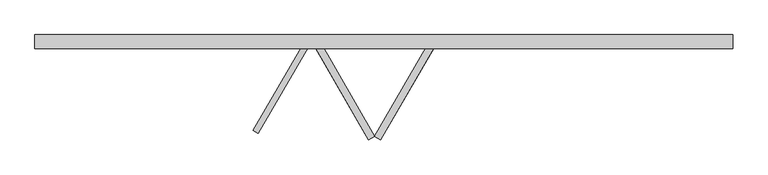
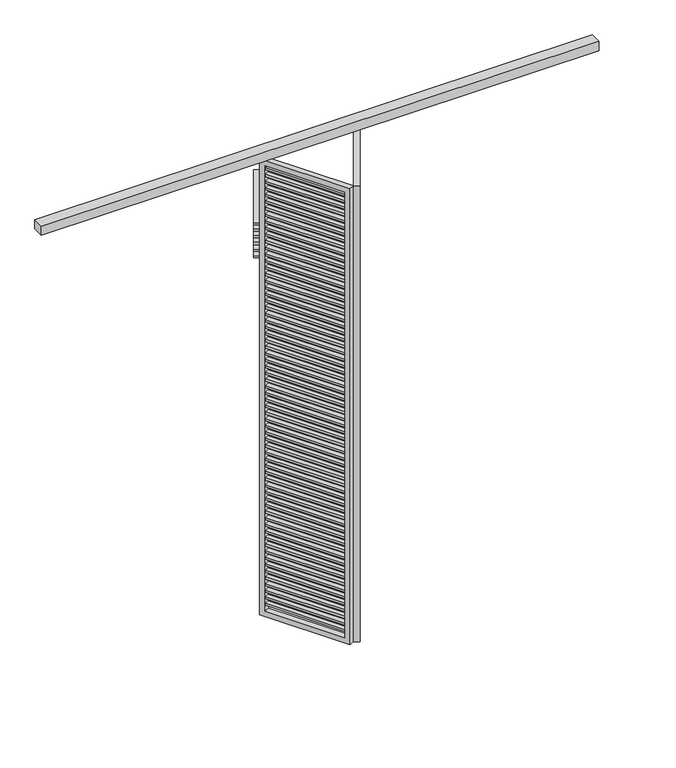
"""IFC4 building model written with IfcOpenShell, lengths in millimetres: proxy geometry, Renson_Amani_Loggia_Plano_Folding : Renson_Amani_Loggia_Plano_Folding."""

from ifc_helpers import new_model, si_unit, frame, origin, place, context, project, spatial, polyline, outline, extrude, source, transform, mapped, element, save


def generic_models_47430486(model_context):
    return source(origin(), model_context, "Body", "SweptSolid", [
        extrude(outline(polyline([(3850.0, 602.9165125), (3850.0, 522.9165125), (-150.0, 522.9165125), (-150.0, 602.9165125), (3850.0, 602.9165125)])), frame((0.0, 0.0, 3500.0), z_axis=(0.0, 0.0, 1.0), x_axis=(1.0, 0.0, 0.0)), (0.0, 0.0, 1.0), 70.0),
        extrude(outline(polyline([(2105.6721051, 546.5254963), (2134.2509434, 530.0254963), (1849.2509434, 36.3910162), (1820.6721051, 52.8910162), (2105.6721051, 546.5254963)])), frame((0.0, 0.0, 3427.0), z_axis=(0.0, 0.0, 1.0), x_axis=(1.0, 0.0, 0.0)), (0.0, 0.0, 1.0), 16.0),
        extrude(outline(polyline([(2105.6721051, 546.5254963), (2134.2509434, 530.0254963), (1849.2509434, 36.3910162), (1820.6721051, 52.8910162), (2105.6721051, 546.5254963)])), frame((0.0, 0.0, 3377.0), z_axis=(0.0, 0.0, 1.0), x_axis=(1.0, 0.0, 0.0)), (0.0, 0.0, 1.0), 16.0),
        extrude(outline(polyline([(2105.6721051, 546.5254963), (2134.2509434, 530.0254963), (1849.2509434, 36.3910162), (1820.6721051, 52.8910162), (2105.6721051, 546.5254963)])), frame((0.0, 0.0, 3327.0), z_axis=(0.0, 0.0, 1.0), x_axis=(1.0, 0.0, 0.0)), (0.0, 0.0, 1.0), 16.0),
        extrude(outline(polyline([(2105.6721051, 546.5254963), (2134.2509434, 530.0254963), (1849.2509434, 36.3910162), (1820.6721051, 52.8910162), (2105.6721051, 546.5254963)])), frame((0.0, 0.0, 3277.0), z_axis=(0.0, 0.0, 1.0), x_axis=(1.0, 0.0, 0.0)), (0.0, 0.0, 1.0), 16.0),
        extrude(outline(polyline([(2105.6721051, 546.5254963), (2134.2509434, 530.0254963), (1849.2509434, 36.3910162), (1820.6721051, 52.8910162), (2105.6721051, 546.5254963)])), frame((0.0, 0.0, 3227.0), z_axis=(0.0, 0.0, 1.0), x_axis=(1.0, 0.0, 0.0)), (0.0, 0.0, 1.0), 16.0),
        extrude(outline(polyline([(2105.6721051, 546.5254963), (2134.2509434, 530.0254963), (1849.2509434, 36.3910162), (1820.6721051, 52.8910162), (2105.6721051, 546.5254963)])), frame((0.0, 0.0, 3177.0), z_axis=(0.0, 0.0, 1.0), x_axis=(1.0, 0.0, 0.0)), (0.0, 0.0, 1.0), 16.0),
        extrude(outline(polyline([(2105.6721051, 546.5254963), (2134.2509434, 530.0254963), (1849.2509434, 36.3910162), (1820.6721051, 52.8910162), (2105.6721051, 546.5254963)])), frame((0.0, 0.0, 3127.0), z_axis=(0.0, 0.0, 1.0), x_axis=(1.0, 0.0, 0.0)), (0.0, 0.0, 1.0), 16.0),
        extrude(outline(polyline([(2105.6721051, 546.5254963), (2134.2509434, 530.0254963), (1849.2509434, 36.3910162), (1820.6721051, 52.8910162), (2105.6721051, 546.5254963)])), frame((0.0, 0.0, 3077.0), z_axis=(0.0, 0.0, 1.0), x_axis=(1.0, 0.0, 0.0)), (0.0, 0.0, 1.0), 16.0),
        extrude(outline(polyline([(2105.6721051, 546.5254963), (2134.2509434, 530.0254963), (1849.2509434, 36.3910162), (1820.6721051, 52.8910162), (2105.6721051, 546.5254963)])), frame((0.0, 0.0, 3027.0), z_axis=(0.0, 0.0, 1.0), x_axis=(1.0, 0.0, 0.0)), (0.0, 0.0, 1.0), 16.0),
        extrude(outline(polyline([(2105.6721051, 546.5254963), (2134.2509434, 530.0254963), (1849.2509434, 36.3910162), (1820.6721051, 52.8910162), (2105.6721051, 546.5254963)])), frame((0.0, 0.0, 2977.0), z_axis=(0.0, 0.0, 1.0), x_axis=(1.0, 0.0, 0.0)), (0.0, 0.0, 1.0), 16.0),
        extrude(outline(polyline([(2105.6721051, 546.5254963), (2134.2509434, 530.0254963), (1849.2509434, 36.3910162), (1820.6721051, 52.8910162), (2105.6721051, 546.5254963)])), frame((0.0, 0.0, 2927.0), z_axis=(0.0, 0.0, 1.0), x_axis=(1.0, 0.0, 0.0)), (0.0, 0.0, 1.0), 16.0),
        extrude(outline(polyline([(2105.6721051, 546.5254963), (2134.2509434, 530.0254963), (1849.2509434, 36.3910162), (1820.6721051, 52.8910162), (2105.6721051, 546.5254963)])), frame((0.0, 0.0, 2877.0), z_axis=(0.0, 0.0, 1.0), x_axis=(1.0, 0.0, 0.0)), (0.0, 0.0, 1.0), 16.0),
        extrude(outline(polyline([(2105.6721051, 546.5254963), (2134.2509434, 530.0254963), (1849.2509434, 36.3910162), (1820.6721051, 52.8910162), (2105.6721051, 546.5254963)])), frame((0.0, 0.0, 2827.0), z_axis=(0.0, 0.0, 1.0), x_axis=(1.0, 0.0, 0.0)), (0.0, 0.0, 1.0), 16.0),
        extrude(outline(polyline([(2105.6721051, 546.5254963), (2134.2509434, 530.0254963), (1849.2509434, 36.3910162), (1820.6721051, 52.8910162), (2105.6721051, 546.5254963)])), frame((0.0, 0.0, 2777.0), z_axis=(0.0, 0.0, 1.0), x_axis=(1.0, 0.0, 0.0)), (0.0, 0.0, 1.0), 16.0),
        extrude(outline(polyline([(2105.6721051, 546.5254963), (2134.2509434, 530.0254963), (1849.2509434, 36.3910162), (1820.6721051, 52.8910162), (2105.6721051, 546.5254963)])), frame((0.0, 0.0, 2727.0), z_axis=(0.0, 0.0, 1.0), x_axis=(1.0, 0.0, 0.0)), (0.0, 0.0, 1.0), 16.0),
        extrude(outline(polyline([(2105.6721051, 546.5254963), (2134.2509434, 530.0254963), (1849.2509434, 36.3910162), (1820.6721051, 52.8910162), (2105.6721051, 546.5254963)])), frame((0.0, 0.0, 2677.0), z_axis=(0.0, 0.0, 1.0), x_axis=(1.0, 0.0, 0.0)), (0.0, 0.0, 1.0), 16.0),
        extrude(outline(polyline([(2105.6721051, 546.5254963), (2134.2509434, 530.0254963), (1849.2509434, 36.3910162), (1820.6721051, 52.8910162), (2105.6721051, 546.5254963)])), frame((0.0, 0.0, 2627.0), z_axis=(0.0, 0.0, 1.0), x_axis=(1.0, 0.0, 0.0)), (0.0, 0.0, 1.0), 16.0),
        extrude(outline(polyline([(2105.6721051, 546.5254963), (2134.2509434, 530.0254963), (1849.2509434, 36.3910162), (1820.6721051, 52.8910162), (2105.6721051, 546.5254963)])), frame((0.0, 0.0, 2577.0), z_axis=(0.0, 0.0, 1.0), x_axis=(1.0, 0.0, 0.0)), (0.0, 0.0, 1.0), 16.0),
        extrude(outline(polyline([(2105.6721051, 546.5254963), (2134.2509434, 530.0254963), (1849.2509434, 36.3910162), (1820.6721051, 52.8910162), (2105.6721051, 546.5254963)])), frame((0.0, 0.0, 2527.0), z_axis=(0.0, 0.0, 1.0), x_axis=(1.0, 0.0, 0.0)), (0.0, 0.0, 1.0), 16.0),
        extrude(outline(polyline([(2105.6721051, 546.5254963), (2134.2509434, 530.0254963), (1849.2509434, 36.3910162), (1820.6721051, 52.8910162), (2105.6721051, 546.5254963)])), frame((0.0, 0.0, 2477.0), z_axis=(0.0, 0.0, 1.0), x_axis=(1.0, 0.0, 0.0)), (0.0, 0.0, 1.0), 16.0),
        extrude(outline(polyline([(2105.6721051, 546.5254963), (2134.2509434, 530.0254963), (1849.2509434, 36.3910162), (1820.6721051, 52.8910162), (2105.6721051, 546.5254963)])), frame((0.0, 0.0, 2427.0), z_axis=(0.0, 0.0, 1.0), x_axis=(1.0, 0.0, 0.0)), (0.0, 0.0, 1.0), 16.0),
        extrude(outline(polyline([(2105.6721051, 546.5254963), (2134.2509434, 530.0254963), (1849.2509434, 36.3910162), (1820.6721051, 52.8910162), (2105.6721051, 546.5254963)])), frame((0.0, 0.0, 2377.0), z_axis=(0.0, 0.0, 1.0), x_axis=(1.0, 0.0, 0.0)), (0.0, 0.0, 1.0), 16.0),
        extrude(outline(polyline([(2105.6721051, 546.5254963), (2134.2509434, 530.0254963), (1849.2509434, 36.3910162), (1820.6721051, 52.8910162), (2105.6721051, 546.5254963)])), frame((0.0, 0.0, 2327.0), z_axis=(0.0, 0.0, 1.0), x_axis=(1.0, 0.0, 0.0)), (0.0, 0.0, 1.0), 16.0),
        extrude(outline(polyline([(2105.6721051, 546.5254963), (2134.2509434, 530.0254963), (1849.2509434, 36.3910162), (1820.6721051, 52.8910162), (2105.6721051, 546.5254963)])), frame((0.0, 0.0, 2277.0), z_axis=(0.0, 0.0, 1.0), x_axis=(1.0, 0.0, 0.0)), (0.0, 0.0, 1.0), 16.0),
        extrude(outline(polyline([(2105.6721051, 546.5254963), (2134.2509434, 530.0254963), (1849.2509434, 36.3910162), (1820.6721051, 52.8910162), (2105.6721051, 546.5254963)])), frame((0.0, 0.0, 2227.0), z_axis=(0.0, 0.0, 1.0), x_axis=(1.0, 0.0, 0.0)), (0.0, 0.0, 1.0), 16.0),
        extrude(outline(polyline([(2105.6721051, 546.5254963), (2134.2509434, 530.0254963), (1849.2509434, 36.3910162), (1820.6721051, 52.8910162), (2105.6721051, 546.5254963)])), frame((0.0, 0.0, 2177.0), z_axis=(0.0, 0.0, 1.0), x_axis=(1.0, 0.0, 0.0)), (0.0, 0.0, 1.0), 16.0),
        extrude(outline(polyline([(2105.6721051, 546.5254963), (2134.2509434, 530.0254963), (1849.2509434, 36.3910162), (1820.6721051, 52.8910162), (2105.6721051, 546.5254963)])), frame((0.0, 0.0, 2127.0), z_axis=(0.0, 0.0, 1.0), x_axis=(1.0, 0.0, 0.0)), (0.0, 0.0, 1.0), 16.0),
        extrude(outline(polyline([(2105.6721051, 546.5254963), (2134.2509434, 530.0254963), (1849.2509434, 36.3910162), (1820.6721051, 52.8910162), (2105.6721051, 546.5254963)])), frame((0.0, 0.0, 2077.0), z_axis=(0.0, 0.0, 1.0), x_axis=(1.0, 0.0, 0.0)), (0.0, 0.0, 1.0), 16.0),
        extrude(outline(polyline([(2105.6721051, 546.5254963), (2134.2509434, 530.0254963), (1849.2509434, 36.3910162), (1820.6721051, 52.8910162), (2105.6721051, 546.5254963)])), frame((0.0, 0.0, 2027.0), z_axis=(0.0, 0.0, 1.0), x_axis=(1.0, 0.0, 0.0)), (0.0, 0.0, 1.0), 16.0),
        extrude(outline(polyline([(2105.6721051, 546.5254963), (2134.2509434, 530.0254963), (1849.2509434, 36.3910162), (1820.6721051, 52.8910162), (2105.6721051, 546.5254963)])), frame((0.0, 0.0, 1977.0), z_axis=(0.0, 0.0, 1.0), x_axis=(1.0, 0.0, 0.0)), (0.0, 0.0, 1.0), 16.0),
        extrude(outline(polyline([(2105.6721051, 546.5254963), (2134.2509434, 530.0254963), (1849.2509434, 36.3910162), (1820.6721051, 52.8910162), (2105.6721051, 546.5254963)])), frame((0.0, 0.0, 1927.0), z_axis=(0.0, 0.0, 1.0), x_axis=(1.0, 0.0, 0.0)), (0.0, 0.0, 1.0), 16.0),
        extrude(outline(polyline([(2105.6721051, 546.5254963), (2134.2509434, 530.0254963), (1849.2509434, 36.3910162), (1820.6721051, 52.8910162), (2105.6721051, 546.5254963)])), frame((0.0, 0.0, 1877.0), z_axis=(0.0, 0.0, 1.0), x_axis=(1.0, 0.0, 0.0)), (0.0, 0.0, 1.0), 16.0),
        extrude(outline(polyline([(2105.6721051, 546.5254963), (2134.2509434, 530.0254963), (1849.2509434, 36.3910162), (1820.6721051, 52.8910162), (2105.6721051, 546.5254963)])), frame((0.0, 0.0, 1827.0), z_axis=(0.0, 0.0, 1.0), x_axis=(1.0, 0.0, 0.0)), (0.0, 0.0, 1.0), 16.0),
        extrude(outline(polyline([(2105.6721051, 546.5254963), (2134.2509434, 530.0254963), (1849.2509434, 36.3910162), (1820.6721051, 52.8910162), (2105.6721051, 546.5254963)])), frame((0.0, 0.0, 1777.0), z_axis=(0.0, 0.0, 1.0), x_axis=(1.0, 0.0, 0.0)), (0.0, 0.0, 1.0), 16.0),
        extrude(outline(polyline([(2105.6721051, 546.5254963), (2134.2509434, 530.0254963), (1849.2509434, 36.3910162), (1820.6721051, 52.8910162), (2105.6721051, 546.5254963)])), frame((0.0, 0.0, 1727.0), z_axis=(0.0, 0.0, 1.0), x_axis=(1.0, 0.0, 0.0)), (0.0, 0.0, 1.0), 16.0),
        extrude(outline(polyline([(2105.6721051, 546.5254963), (2134.2509434, 530.0254963), (1849.2509434, 36.3910162), (1820.6721051, 52.8910162), (2105.6721051, 546.5254963)])), frame((0.0, 0.0, 1677.0), z_axis=(0.0, 0.0, 1.0), x_axis=(1.0, 0.0, 0.0)), (0.0, 0.0, 1.0), 16.0),
        extrude(outline(polyline([(2105.6721051, 546.5254963), (2134.2509434, 530.0254963), (1849.2509434, 36.3910162), (1820.6721051, 52.8910162), (2105.6721051, 546.5254963)])), frame((0.0, 0.0, 1627.0), z_axis=(0.0, 0.0, 1.0), x_axis=(1.0, 0.0, 0.0)), (0.0, 0.0, 1.0), 16.0),
        extrude(outline(polyline([(2105.6721051, 546.5254963), (2134.2509434, 530.0254963), (1849.2509434, 36.3910162), (1820.6721051, 52.8910162), (2105.6721051, 546.5254963)])), frame((0.0, 0.0, 1577.0), z_axis=(0.0, 0.0, 1.0), x_axis=(1.0, 0.0, 0.0)), (0.0, 0.0, 1.0), 16.0),
        extrude(outline(polyline([(2105.6721051, 546.5254963), (2134.2509434, 530.0254963), (1849.2509434, 36.3910162), (1820.6721051, 52.8910162), (2105.6721051, 546.5254963)])), frame((0.0, 0.0, 1527.0), z_axis=(0.0, 0.0, 1.0), x_axis=(1.0, 0.0, 0.0)), (0.0, 0.0, 1.0), 16.0),
        extrude(outline(polyline([(2105.6721051, 546.5254963), (2134.2509434, 530.0254963), (1849.2509434, 36.3910162), (1820.6721051, 52.8910162), (2105.6721051, 546.5254963)])), frame((0.0, 0.0, 1477.0), z_axis=(0.0, 0.0, 1.0), x_axis=(1.0, 0.0, 0.0)), (0.0, 0.0, 1.0), 16.0),
        extrude(outline(polyline([(2105.6721051, 546.5254963), (2134.2509434, 530.0254963), (1849.2509434, 36.3910162), (1820.6721051, 52.8910162), (2105.6721051, 546.5254963)])), frame((0.0, 0.0, 1427.0), z_axis=(0.0, 0.0, 1.0), x_axis=(1.0, 0.0, 0.0)), (0.0, 0.0, 1.0), 16.0),
        extrude(outline(polyline([(2105.6721051, 546.5254963), (2134.2509434, 530.0254963), (1849.2509434, 36.3910162), (1820.6721051, 52.8910162), (2105.6721051, 546.5254963)])), frame((0.0, 0.0, 1377.0), z_axis=(0.0, 0.0, 1.0), x_axis=(1.0, 0.0, 0.0)), (0.0, 0.0, 1.0), 16.0),
        extrude(outline(polyline([(2105.6721051, 546.5254963), (2134.2509434, 530.0254963), (1849.2509434, 36.3910162), (1820.6721051, 52.8910162), (2105.6721051, 546.5254963)])), frame((0.0, 0.0, 1327.0), z_axis=(0.0, 0.0, 1.0), x_axis=(1.0, 0.0, 0.0)), (0.0, 0.0, 1.0), 16.0),
        extrude(outline(polyline([(2105.6721051, 546.5254963), (2134.2509434, 530.0254963), (1849.2509434, 36.3910162), (1820.6721051, 52.8910162), (2105.6721051, 546.5254963)])), frame((0.0, 0.0, 1277.0), z_axis=(0.0, 0.0, 1.0), x_axis=(1.0, 0.0, 0.0)), (0.0, 0.0, 1.0), 16.0),
        extrude(outline(polyline([(2105.6721051, 546.5254963), (2134.2509434, 530.0254963), (1849.2509434, 36.3910162), (1820.6721051, 52.8910162), (2105.6721051, 546.5254963)])), frame((0.0, 0.0, 1227.0), z_axis=(0.0, 0.0, 1.0), x_axis=(1.0, 0.0, 0.0)), (0.0, 0.0, 1.0), 16.0),
        extrude(outline(polyline([(2105.6721051, 546.5254963), (2134.2509434, 530.0254963), (1849.2509434, 36.3910162), (1820.6721051, 52.8910162), (2105.6721051, 546.5254963)])), frame((0.0, 0.0, 1177.0), z_axis=(0.0, 0.0, 1.0), x_axis=(1.0, 0.0, 0.0)), (0.0, 0.0, 1.0), 16.0),
        extrude(outline(polyline([(2105.6721051, 546.5254963), (2134.2509434, 530.0254963), (1849.2509434, 36.3910162), (1820.6721051, 52.8910162), (2105.6721051, 546.5254963)])), frame((0.0, 0.0, 1127.0), z_axis=(0.0, 0.0, 1.0), x_axis=(1.0, 0.0, 0.0)), (0.0, 0.0, 1.0), 16.0),
        extrude(outline(polyline([(2105.6721051, 546.5254963), (2134.2509434, 530.0254963), (1849.2509434, 36.3910162), (1820.6721051, 52.8910162), (2105.6721051, 546.5254963)])), frame((0.0, 0.0, 1077.0), z_axis=(0.0, 0.0, 1.0), x_axis=(1.0, 0.0, 0.0)), (0.0, 0.0, 1.0), 16.0),
        extrude(outline(polyline([(2105.6721051, 546.5254963), (2134.2509434, 530.0254963), (1849.2509434, 36.3910162), (1820.6721051, 52.8910162), (2105.6721051, 546.5254963)])), frame((0.0, 0.0, 1027.0), z_axis=(0.0, 0.0, 1.0), x_axis=(1.0, 0.0, 0.0)), (0.0, 0.0, 1.0), 16.0),
        extrude(outline(polyline([(2105.6721051, 546.5254963), (2134.2509434, 530.0254963), (1849.2509434, 36.3910162), (1820.6721051, 52.8910162), (2105.6721051, 546.5254963)])), frame((0.0, 0.0, 977.0), z_axis=(0.0, 0.0, 1.0), x_axis=(1.0, 0.0, 0.0)), (0.0, 0.0, 1.0), 16.0),
        extrude(outline(polyline([(2105.6721051, 546.5254963), (2134.2509434, 530.0254963), (1849.2509434, 36.3910162), (1820.6721051, 52.8910162), (2105.6721051, 546.5254963)])), frame((0.0, 0.0, 927.0), z_axis=(0.0, 0.0, 1.0), x_axis=(1.0, 0.0, 0.0)), (0.0, 0.0, 1.0), 16.0),
        extrude(outline(polyline([(2105.6721051, 546.5254963), (2134.2509434, 530.0254963), (1849.2509434, 36.3910162), (1820.6721051, 52.8910162), (2105.6721051, 546.5254963)])), frame((0.0, 0.0, 877.0), z_axis=(0.0, 0.0, 1.0), x_axis=(1.0, 0.0, 0.0)), (0.0, 0.0, 1.0), 16.0),
        extrude(outline(polyline([(2105.6721051, 546.5254963), (2134.2509434, 530.0254963), (1849.2509434, 36.3910162), (1820.6721051, 52.8910162), (2105.6721051, 546.5254963)])), frame((0.0, 0.0, 827.0), z_axis=(0.0, 0.0, 1.0), x_axis=(1.0, 0.0, 0.0)), (0.0, 0.0, 1.0), 16.0),
        extrude(outline(polyline([(2105.6721051, 546.5254963), (2134.2509434, 530.0254963), (1849.2509434, 36.3910162), (1820.6721051, 52.8910162), (2105.6721051, 546.5254963)])), frame((0.0, 0.0, 777.0), z_axis=(0.0, 0.0, 1.0), x_axis=(1.0, 0.0, 0.0)), (0.0, 0.0, 1.0), 16.0),
        extrude(outline(polyline([(2105.6721051, 546.5254963), (2134.2509434, 530.0254963), (1849.2509434, 36.3910162), (1820.6721051, 52.8910162), (2105.6721051, 546.5254963)])), frame((0.0, 0.0, 727.0), z_axis=(0.0, 0.0, 1.0), x_axis=(1.0, 0.0, 0.0)), (0.0, 0.0, 1.0), 16.0),
        extrude(outline(polyline([(2105.6721051, 546.5254963), (2134.2509434, 530.0254963), (1849.2509434, 36.3910162), (1820.6721051, 52.8910162), (2105.6721051, 546.5254963)])), frame((0.0, 0.0, 677.0), z_axis=(0.0, 0.0, 1.0), x_axis=(1.0, 0.0, 0.0)), (0.0, 0.0, 1.0), 16.0),
        extrude(outline(polyline([(2105.6721051, 546.5254963), (2134.2509434, 530.0254963), (1849.2509434, 36.3910162), (1820.6721051, 52.8910162), (2105.6721051, 546.5254963)])), frame((0.0, 0.0, 627.0), z_axis=(0.0, 0.0, 1.0), x_axis=(1.0, 0.0, 0.0)), (0.0, 0.0, 1.0), 16.0),
        extrude(outline(polyline([(2105.6721051, 546.5254963), (2134.2509434, 530.0254963), (1849.2509434, 36.3910162), (1820.6721051, 52.8910162), (2105.6721051, 546.5254963)])), frame((0.0, 0.0, 577.0), z_axis=(0.0, 0.0, 1.0), x_axis=(1.0, 0.0, 0.0)), (0.0, 0.0, 1.0), 16.0),
        extrude(outline(polyline([(2105.6721051, 546.5254963), (2134.2509434, 530.0254963), (1849.2509434, 36.3910162), (1820.6721051, 52.8910162), (2105.6721051, 546.5254963)])), frame((0.0, 0.0, 527.0), z_axis=(0.0, 0.0, 1.0), x_axis=(1.0, 0.0, 0.0)), (0.0, 0.0, 1.0), 16.0),
        extrude(outline(polyline([(2105.6721051, 546.5254963), (2134.2509434, 530.0254963), (1849.2509434, 36.3910162), (1820.6721051, 52.8910162), (2105.6721051, 546.5254963)])), frame((0.0, 0.0, 477.0), z_axis=(0.0, 0.0, 1.0), x_axis=(1.0, 0.0, 0.0)), (0.0, 0.0, 1.0), 16.0),
        extrude(outline(polyline([(2105.6721051, 546.5254963), (2134.2509434, 530.0254963), (1849.2509434, 36.3910162), (1820.6721051, 52.8910162), (2105.6721051, 546.5254963)])), frame((0.0, 0.0, 427.0), z_axis=(0.0, 0.0, 1.0), x_axis=(1.0, 0.0, 0.0)), (0.0, 0.0, 1.0), 16.0),
        extrude(outline(polyline([(2105.6721051, 546.5254963), (2134.2509434, 530.0254963), (1849.2509434, 36.3910162), (1820.6721051, 52.8910162), (2105.6721051, 546.5254963)])), frame((0.0, 0.0, 377.0), z_axis=(0.0, 0.0, 1.0), x_axis=(1.0, 0.0, 0.0)), (0.0, 0.0, 1.0), 16.0),
        extrude(outline(polyline([(2105.6721051, 546.5254963), (2134.2509434, 530.0254963), (1849.2509434, 36.3910162), (1820.6721051, 52.8910162), (2105.6721051, 546.5254963)])), frame((0.0, 0.0, 327.0), z_axis=(0.0, 0.0, 1.0), x_axis=(1.0, 0.0, 0.0)), (0.0, 0.0, 1.0), 16.0),
        extrude(outline(polyline([(2105.6721051, 546.5254963), (2134.2509434, 530.0254963), (1849.2509434, 36.3910162), (1820.6721051, 52.8910162), (2105.6721051, 546.5254963)])), frame((0.0, 0.0, 277.0), z_axis=(0.0, 0.0, 1.0), x_axis=(1.0, 0.0, 0.0)), (0.0, 0.0, 1.0), 16.0),
        extrude(outline(polyline([(2105.6721051, 546.5254963), (2134.2509434, 530.0254963), (1849.2509434, 36.3910162), (1820.6721051, 52.8910162), (2105.6721051, 546.5254963)])), frame((0.0, 0.0, 227.0), z_axis=(0.0, 0.0, 1.0), x_axis=(1.0, 0.0, 0.0)), (0.0, 0.0, 1.0), 16.0),
        extrude(outline(polyline([(2105.6721051, 546.5254963), (2134.2509434, 530.0254963), (1849.2509434, 36.3910162), (1820.6721051, 52.8910162), (2105.6721051, 546.5254963)])), frame((0.0, 0.0, 177.0), z_axis=(0.0, 0.0, 1.0), x_axis=(1.0, 0.0, 0.0)), (0.0, 0.0, 1.0), 16.0),
        extrude(outline(polyline([(2105.6721051, 546.5254963), (2134.2509434, 530.0254963), (1849.2509434, 36.3910162), (1820.6721051, 52.8910162), (2105.6721051, 546.5254963)])), frame((0.0, 0.0, 127.0), z_axis=(0.0, 0.0, 1.0), x_axis=(1.0, 0.0, 0.0)), (0.0, 0.0, 1.0), 16.0),
        extrude(outline(polyline([(3415.0, -40.0), (-40.0, -40.0), (-40.0, 610.0), (3415.0, 610.0), (3415.0, -40.0)]), holes=[polyline([(3375.0, 570.0), (0.0, 570.0), (0.0, 0.0), (3375.0, 0.0), (3375.0, 570.0)])]), frame((1852.2820323, 34.6410162, 85.0), z_axis=(-0.8660254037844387, 0.49999999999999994, 0.0), x_axis=(0.0, 0.0, 1.0)), (0.0, 0.0, 1.0), 40.0),
        extrude(outline(polyline([(1774.8919595, 52.8910162), (1746.3131212, 36.3910162), (1461.3131212, 530.0254963), (1489.8919595, 546.5254963), (1774.8919595, 52.8910162)])), frame((0.0, 0.0, 3427.0), z_axis=(0.0, 0.0, 1.0), x_axis=(1.0, 0.0, 0.0)), (0.0, 0.0, 1.0), 16.0),
        extrude(outline(polyline([(1774.8919595, 52.8910162), (1746.3131212, 36.3910162), (1461.3131212, 530.0254963), (1489.8919595, 546.5254963), (1774.8919595, 52.8910162)])), frame((0.0, 0.0, 3377.0), z_axis=(0.0, 0.0, 1.0), x_axis=(1.0, 0.0, 0.0)), (0.0, 0.0, 1.0), 16.0),
        extrude(outline(polyline([(1774.8919595, 52.8910162), (1746.3131212, 36.3910162), (1461.3131212, 530.0254963), (1489.8919595, 546.5254963), (1774.8919595, 52.8910162)])), frame((0.0, 0.0, 3327.0), z_axis=(0.0, 0.0, 1.0), x_axis=(1.0, 0.0, 0.0)), (0.0, 0.0, 1.0), 16.0),
        extrude(outline(polyline([(1774.8919595, 52.8910162), (1746.3131212, 36.3910162), (1461.3131212, 530.0254963), (1489.8919595, 546.5254963), (1774.8919595, 52.8910162)])), frame((0.0, 0.0, 3277.0), z_axis=(0.0, 0.0, 1.0), x_axis=(1.0, 0.0, 0.0)), (0.0, 0.0, 1.0), 16.0),
        extrude(outline(polyline([(1774.8919595, 52.8910162), (1746.3131212, 36.3910162), (1461.3131212, 530.0254963), (1489.8919595, 546.5254963), (1774.8919595, 52.8910162)])), frame((0.0, 0.0, 3227.0), z_axis=(0.0, 0.0, 1.0), x_axis=(1.0, 0.0, 0.0)), (0.0, 0.0, 1.0), 16.0),
        extrude(outline(polyline([(1774.8919595, 52.8910162), (1746.3131212, 36.3910162), (1461.3131212, 530.0254963), (1489.8919595, 546.5254963), (1774.8919595, 52.8910162)])), frame((0.0, 0.0, 3177.0), z_axis=(0.0, 0.0, 1.0), x_axis=(1.0, 0.0, 0.0)), (0.0, 0.0, 1.0), 16.0),
        extrude(outline(polyline([(1774.8919595, 52.8910162), (1746.3131212, 36.3910162), (1461.3131212, 530.0254963), (1489.8919595, 546.5254963), (1774.8919595, 52.8910162)])), frame((0.0, 0.0, 3127.0), z_axis=(0.0, 0.0, 1.0), x_axis=(1.0, 0.0, 0.0)), (0.0, 0.0, 1.0), 16.0),
        extrude(outline(polyline([(1774.8919595, 52.8910162), (1746.3131212, 36.3910162), (1461.3131212, 530.0254963), (1489.8919595, 546.5254963), (1774.8919595, 52.8910162)])), frame((0.0, 0.0, 3077.0), z_axis=(0.0, 0.0, 1.0), x_axis=(1.0, 0.0, 0.0)), (0.0, 0.0, 1.0), 16.0),
        extrude(outline(polyline([(1774.8919595, 52.8910162), (1746.3131212, 36.3910162), (1461.3131212, 530.0254963), (1489.8919595, 546.5254963), (1774.8919595, 52.8910162)])), frame((0.0, 0.0, 3027.0), z_axis=(0.0, 0.0, 1.0), x_axis=(1.0, 0.0, 0.0)), (0.0, 0.0, 1.0), 16.0),
        extrude(outline(polyline([(1774.8919595, 52.8910162), (1746.3131212, 36.3910162), (1461.3131212, 530.0254963), (1489.8919595, 546.5254963), (1774.8919595, 52.8910162)])), frame((0.0, 0.0, 2977.0), z_axis=(0.0, 0.0, 1.0), x_axis=(1.0, 0.0, 0.0)), (0.0, 0.0, 1.0), 16.0),
        extrude(outline(polyline([(1774.8919595, 52.8910162), (1746.3131212, 36.3910162), (1461.3131212, 530.0254963), (1489.8919595, 546.5254963), (1774.8919595, 52.8910162)])), frame((0.0, 0.0, 2927.0), z_axis=(0.0, 0.0, 1.0), x_axis=(1.0, 0.0, 0.0)), (0.0, 0.0, 1.0), 16.0),
        extrude(outline(polyline([(1774.8919595, 52.8910162), (1746.3131212, 36.3910162), (1461.3131212, 530.0254963), (1489.8919595, 546.5254963), (1774.8919595, 52.8910162)])), frame((0.0, 0.0, 2877.0), z_axis=(0.0, 0.0, 1.0), x_axis=(1.0, 0.0, 0.0)), (0.0, 0.0, 1.0), 16.0),
        extrude(outline(polyline([(1774.8919595, 52.8910162), (1746.3131212, 36.3910162), (1461.3131212, 530.0254963), (1489.8919595, 546.5254963), (1774.8919595, 52.8910162)])), frame((0.0, 0.0, 2827.0), z_axis=(0.0, 0.0, 1.0), x_axis=(1.0, 0.0, 0.0)), (0.0, 0.0, 1.0), 16.0),
        extrude(outline(polyline([(1774.8919595, 52.8910162), (1746.3131212, 36.3910162), (1461.3131212, 530.0254963), (1489.8919595, 546.5254963), (1774.8919595, 52.8910162)])), frame((0.0, 0.0, 2777.0), z_axis=(0.0, 0.0, 1.0), x_axis=(1.0, 0.0, 0.0)), (0.0, 0.0, 1.0), 16.0),
        extrude(outline(polyline([(1774.8919595, 52.8910162), (1746.3131212, 36.3910162), (1461.3131212, 530.0254963), (1489.8919595, 546.5254963), (1774.8919595, 52.8910162)])), frame((0.0, 0.0, 2727.0), z_axis=(0.0, 0.0, 1.0), x_axis=(1.0, 0.0, 0.0)), (0.0, 0.0, 1.0), 16.0),
        extrude(outline(polyline([(1774.8919595, 52.8910162), (1746.3131212, 36.3910162), (1461.3131212, 530.0254963), (1489.8919595, 546.5254963), (1774.8919595, 52.8910162)])), frame((0.0, 0.0, 2677.0), z_axis=(0.0, 0.0, 1.0), x_axis=(1.0, 0.0, 0.0)), (0.0, 0.0, 1.0), 16.0),
        extrude(outline(polyline([(1774.8919595, 52.8910162), (1746.3131212, 36.3910162), (1461.3131212, 530.0254963), (1489.8919595, 546.5254963), (1774.8919595, 52.8910162)])), frame((0.0, 0.0, 2627.0), z_axis=(0.0, 0.0, 1.0), x_axis=(1.0, 0.0, 0.0)), (0.0, 0.0, 1.0), 16.0),
        extrude(outline(polyline([(1774.8919595, 52.8910162), (1746.3131212, 36.3910162), (1461.3131212, 530.0254963), (1489.8919595, 546.5254963), (1774.8919595, 52.8910162)])), frame((0.0, 0.0, 2577.0), z_axis=(0.0, 0.0, 1.0), x_axis=(1.0, 0.0, 0.0)), (0.0, 0.0, 1.0), 16.0),
        extrude(outline(polyline([(1774.8919595, 52.8910162), (1746.3131212, 36.3910162), (1461.3131212, 530.0254963), (1489.8919595, 546.5254963), (1774.8919595, 52.8910162)])), frame((0.0, 0.0, 2527.0), z_axis=(0.0, 0.0, 1.0), x_axis=(1.0, 0.0, 0.0)), (0.0, 0.0, 1.0), 16.0),
        extrude(outline(polyline([(1774.8919595, 52.8910162), (1746.3131212, 36.3910162), (1461.3131212, 530.0254963), (1489.8919595, 546.5254963), (1774.8919595, 52.8910162)])), frame((0.0, 0.0, 2477.0), z_axis=(0.0, 0.0, 1.0), x_axis=(1.0, 0.0, 0.0)), (0.0, 0.0, 1.0), 16.0),
        extrude(outline(polyline([(1774.8919595, 52.8910162), (1746.3131212, 36.3910162), (1461.3131212, 530.0254963), (1489.8919595, 546.5254963), (1774.8919595, 52.8910162)])), frame((0.0, 0.0, 2427.0), z_axis=(0.0, 0.0, 1.0), x_axis=(1.0, 0.0, 0.0)), (0.0, 0.0, 1.0), 16.0),
        extrude(outline(polyline([(1774.8919595, 52.8910162), (1746.3131212, 36.3910162), (1461.3131212, 530.0254963), (1489.8919595, 546.5254963), (1774.8919595, 52.8910162)])), frame((0.0, 0.0, 2377.0), z_axis=(0.0, 0.0, 1.0), x_axis=(1.0, 0.0, 0.0)), (0.0, 0.0, 1.0), 16.0),
        extrude(outline(polyline([(1774.8919595, 52.8910162), (1746.3131212, 36.3910162), (1461.3131212, 530.0254963), (1489.8919595, 546.5254963), (1774.8919595, 52.8910162)])), frame((0.0, 0.0, 2327.0), z_axis=(0.0, 0.0, 1.0), x_axis=(1.0, 0.0, 0.0)), (0.0, 0.0, 1.0), 16.0),
        extrude(outline(polyline([(1774.8919595, 52.8910162), (1746.3131212, 36.3910162), (1461.3131212, 530.0254963), (1489.8919595, 546.5254963), (1774.8919595, 52.8910162)])), frame((0.0, 0.0, 2277.0), z_axis=(0.0, 0.0, 1.0), x_axis=(1.0, 0.0, 0.0)), (0.0, 0.0, 1.0), 16.0),
        extrude(outline(polyline([(1774.8919595, 52.8910162), (1746.3131212, 36.3910162), (1461.3131212, 530.0254963), (1489.8919595, 546.5254963), (1774.8919595, 52.8910162)])), frame((0.0, 0.0, 2227.0), z_axis=(0.0, 0.0, 1.0), x_axis=(1.0, 0.0, 0.0)), (0.0, 0.0, 1.0), 16.0),
        extrude(outline(polyline([(1774.8919595, 52.8910162), (1746.3131212, 36.3910162), (1461.3131212, 530.0254963), (1489.8919595, 546.5254963), (1774.8919595, 52.8910162)])), frame((0.0, 0.0, 2177.0), z_axis=(0.0, 0.0, 1.0), x_axis=(1.0, 0.0, 0.0)), (0.0, 0.0, 1.0), 16.0),
        extrude(outline(polyline([(1774.8919595, 52.8910162), (1746.3131212, 36.3910162), (1461.3131212, 530.0254963), (1489.8919595, 546.5254963), (1774.8919595, 52.8910162)])), frame((0.0, 0.0, 2127.0), z_axis=(0.0, 0.0, 1.0), x_axis=(1.0, 0.0, 0.0)), (0.0, 0.0, 1.0), 16.0),
        extrude(outline(polyline([(1774.8919595, 52.8910162), (1746.3131212, 36.3910162), (1461.3131212, 530.0254963), (1489.8919595, 546.5254963), (1774.8919595, 52.8910162)])), frame((0.0, 0.0, 2077.0), z_axis=(0.0, 0.0, 1.0), x_axis=(1.0, 0.0, 0.0)), (0.0, 0.0, 1.0), 16.0),
        extrude(outline(polyline([(1774.8919595, 52.8910162), (1746.3131212, 36.3910162), (1461.3131212, 530.0254963), (1489.8919595, 546.5254963), (1774.8919595, 52.8910162)])), frame((0.0, 0.0, 2027.0), z_axis=(0.0, 0.0, 1.0), x_axis=(1.0, 0.0, 0.0)), (0.0, 0.0, 1.0), 16.0),
        extrude(outline(polyline([(1774.8919595, 52.8910162), (1746.3131212, 36.3910162), (1461.3131212, 530.0254963), (1489.8919595, 546.5254963), (1774.8919595, 52.8910162)])), frame((0.0, 0.0, 1977.0), z_axis=(0.0, 0.0, 1.0), x_axis=(1.0, 0.0, 0.0)), (0.0, 0.0, 1.0), 16.0),
        extrude(outline(polyline([(1774.8919595, 52.8910162), (1746.3131212, 36.3910162), (1461.3131212, 530.0254963), (1489.8919595, 546.5254963), (1774.8919595, 52.8910162)])), frame((0.0, 0.0, 1927.0), z_axis=(0.0, 0.0, 1.0), x_axis=(1.0, 0.0, 0.0)), (0.0, 0.0, 1.0), 16.0),
        extrude(outline(polyline([(1774.8919595, 52.8910162), (1746.3131212, 36.3910162), (1461.3131212, 530.0254963), (1489.8919595, 546.5254963), (1774.8919595, 52.8910162)])), frame((0.0, 0.0, 1877.0), z_axis=(0.0, 0.0, 1.0), x_axis=(1.0, 0.0, 0.0)), (0.0, 0.0, 1.0), 16.0),
        extrude(outline(polyline([(1774.8919595, 52.8910162), (1746.3131212, 36.3910162), (1461.3131212, 530.0254963), (1489.8919595, 546.5254963), (1774.8919595, 52.8910162)])), frame((0.0, 0.0, 1827.0), z_axis=(0.0, 0.0, 1.0), x_axis=(1.0, 0.0, 0.0)), (0.0, 0.0, 1.0), 16.0),
        extrude(outline(polyline([(1774.8919595, 52.8910162), (1746.3131212, 36.3910162), (1461.3131212, 530.0254963), (1489.8919595, 546.5254963), (1774.8919595, 52.8910162)])), frame((0.0, 0.0, 1777.0), z_axis=(0.0, 0.0, 1.0), x_axis=(1.0, 0.0, 0.0)), (0.0, 0.0, 1.0), 16.0),
        extrude(outline(polyline([(1774.8919595, 52.8910162), (1746.3131212, 36.3910162), (1461.3131212, 530.0254963), (1489.8919595, 546.5254963), (1774.8919595, 52.8910162)])), frame((0.0, 0.0, 1727.0), z_axis=(0.0, 0.0, 1.0), x_axis=(1.0, 0.0, 0.0)), (0.0, 0.0, 1.0), 16.0),
        extrude(outline(polyline([(1774.8919595, 52.8910162), (1746.3131212, 36.3910162), (1461.3131212, 530.0254963), (1489.8919595, 546.5254963), (1774.8919595, 52.8910162)])), frame((0.0, 0.0, 1677.0), z_axis=(0.0, 0.0, 1.0), x_axis=(1.0, 0.0, 0.0)), (0.0, 0.0, 1.0), 16.0),
        extrude(outline(polyline([(1774.8919595, 52.8910162), (1746.3131212, 36.3910162), (1461.3131212, 530.0254963), (1489.8919595, 546.5254963), (1774.8919595, 52.8910162)])), frame((0.0, 0.0, 1627.0), z_axis=(0.0, 0.0, 1.0), x_axis=(1.0, 0.0, 0.0)), (0.0, 0.0, 1.0), 16.0),
        extrude(outline(polyline([(1774.8919595, 52.8910162), (1746.3131212, 36.3910162), (1461.3131212, 530.0254963), (1489.8919595, 546.5254963), (1774.8919595, 52.8910162)])), frame((0.0, 0.0, 1577.0), z_axis=(0.0, 0.0, 1.0), x_axis=(1.0, 0.0, 0.0)), (0.0, 0.0, 1.0), 16.0),
        extrude(outline(polyline([(1774.8919595, 52.8910162), (1746.3131212, 36.3910162), (1461.3131212, 530.0254963), (1489.8919595, 546.5254963), (1774.8919595, 52.8910162)])), frame((0.0, 0.0, 1527.0), z_axis=(0.0, 0.0, 1.0), x_axis=(1.0, 0.0, 0.0)), (0.0, 0.0, 1.0), 16.0),
        extrude(outline(polyline([(1774.8919595, 52.8910162), (1746.3131212, 36.3910162), (1461.3131212, 530.0254963), (1489.8919595, 546.5254963), (1774.8919595, 52.8910162)])), frame((0.0, 0.0, 1477.0), z_axis=(0.0, 0.0, 1.0), x_axis=(1.0, 0.0, 0.0)), (0.0, 0.0, 1.0), 16.0),
        extrude(outline(polyline([(1774.8919595, 52.8910162), (1746.3131212, 36.3910162), (1461.3131212, 530.0254963), (1489.8919595, 546.5254963), (1774.8919595, 52.8910162)])), frame((0.0, 0.0, 1427.0), z_axis=(0.0, 0.0, 1.0), x_axis=(1.0, 0.0, 0.0)), (0.0, 0.0, 1.0), 16.0),
        extrude(outline(polyline([(1774.8919595, 52.8910162), (1746.3131212, 36.3910162), (1461.3131212, 530.0254963), (1489.8919595, 546.5254963), (1774.8919595, 52.8910162)])), frame((0.0, 0.0, 1377.0), z_axis=(0.0, 0.0, 1.0), x_axis=(1.0, 0.0, 0.0)), (0.0, 0.0, 1.0), 16.0),
        extrude(outline(polyline([(1774.8919595, 52.8910162), (1746.3131212, 36.3910162), (1461.3131212, 530.0254963), (1489.8919595, 546.5254963), (1774.8919595, 52.8910162)])), frame((0.0, 0.0, 1327.0), z_axis=(0.0, 0.0, 1.0), x_axis=(1.0, 0.0, 0.0)), (0.0, 0.0, 1.0), 16.0),
        extrude(outline(polyline([(1774.8919595, 52.8910162), (1746.3131212, 36.3910162), (1461.3131212, 530.0254963), (1489.8919595, 546.5254963), (1774.8919595, 52.8910162)])), frame((0.0, 0.0, 1277.0), z_axis=(0.0, 0.0, 1.0), x_axis=(1.0, 0.0, 0.0)), (0.0, 0.0, 1.0), 16.0),
        extrude(outline(polyline([(1774.8919595, 52.8910162), (1746.3131212, 36.3910162), (1461.3131212, 530.0254963), (1489.8919595, 546.5254963), (1774.8919595, 52.8910162)])), frame((0.0, 0.0, 1227.0), z_axis=(0.0, 0.0, 1.0), x_axis=(1.0, 0.0, 0.0)), (0.0, 0.0, 1.0), 16.0),
        extrude(outline(polyline([(1774.8919595, 52.8910162), (1746.3131212, 36.3910162), (1461.3131212, 530.0254963), (1489.8919595, 546.5254963), (1774.8919595, 52.8910162)])), frame((0.0, 0.0, 1177.0), z_axis=(0.0, 0.0, 1.0), x_axis=(1.0, 0.0, 0.0)), (0.0, 0.0, 1.0), 16.0),
        extrude(outline(polyline([(1774.8919595, 52.8910162), (1746.3131212, 36.3910162), (1461.3131212, 530.0254963), (1489.8919595, 546.5254963), (1774.8919595, 52.8910162)])), frame((0.0, 0.0, 1127.0), z_axis=(0.0, 0.0, 1.0), x_axis=(1.0, 0.0, 0.0)), (0.0, 0.0, 1.0), 16.0),
        extrude(outline(polyline([(1774.8919595, 52.8910162), (1746.3131212, 36.3910162), (1461.3131212, 530.0254963), (1489.8919595, 546.5254963), (1774.8919595, 52.8910162)])), frame((0.0, 0.0, 1077.0), z_axis=(0.0, 0.0, 1.0), x_axis=(1.0, 0.0, 0.0)), (0.0, 0.0, 1.0), 16.0),
        extrude(outline(polyline([(1774.8919595, 52.8910162), (1746.3131212, 36.3910162), (1461.3131212, 530.0254963), (1489.8919595, 546.5254963), (1774.8919595, 52.8910162)])), frame((0.0, 0.0, 1027.0), z_axis=(0.0, 0.0, 1.0), x_axis=(1.0, 0.0, 0.0)), (0.0, 0.0, 1.0), 16.0),
        extrude(outline(polyline([(1774.8919595, 52.8910162), (1746.3131212, 36.3910162), (1461.3131212, 530.0254963), (1489.8919595, 546.5254963), (1774.8919595, 52.8910162)])), frame((0.0, 0.0, 977.0), z_axis=(0.0, 0.0, 1.0), x_axis=(1.0, 0.0, 0.0)), (0.0, 0.0, 1.0), 16.0),
        extrude(outline(polyline([(1774.8919595, 52.8910162), (1746.3131212, 36.3910162), (1461.3131212, 530.0254963), (1489.8919595, 546.5254963), (1774.8919595, 52.8910162)])), frame((0.0, 0.0, 927.0), z_axis=(0.0, 0.0, 1.0), x_axis=(1.0, 0.0, 0.0)), (0.0, 0.0, 1.0), 16.0),
        extrude(outline(polyline([(1774.8919595, 52.8910162), (1746.3131212, 36.3910162), (1461.3131212, 530.0254963), (1489.8919595, 546.5254963), (1774.8919595, 52.8910162)])), frame((0.0, 0.0, 877.0), z_axis=(0.0, 0.0, 1.0), x_axis=(1.0, 0.0, 0.0)), (0.0, 0.0, 1.0), 16.0),
        extrude(outline(polyline([(1774.8919595, 52.8910162), (1746.3131212, 36.3910162), (1461.3131212, 530.0254963), (1489.8919595, 546.5254963), (1774.8919595, 52.8910162)])), frame((0.0, 0.0, 827.0), z_axis=(0.0, 0.0, 1.0), x_axis=(1.0, 0.0, 0.0)), (0.0, 0.0, 1.0), 16.0),
        extrude(outline(polyline([(1774.8919595, 52.8910162), (1746.3131212, 36.3910162), (1461.3131212, 530.0254963), (1489.8919595, 546.5254963), (1774.8919595, 52.8910162)])), frame((0.0, 0.0, 777.0), z_axis=(0.0, 0.0, 1.0), x_axis=(1.0, 0.0, 0.0)), (0.0, 0.0, 1.0), 16.0),
        extrude(outline(polyline([(1774.8919595, 52.8910162), (1746.3131212, 36.3910162), (1461.3131212, 530.0254963), (1489.8919595, 546.5254963), (1774.8919595, 52.8910162)])), frame((0.0, 0.0, 727.0), z_axis=(0.0, 0.0, 1.0), x_axis=(1.0, 0.0, 0.0)), (0.0, 0.0, 1.0), 16.0),
        extrude(outline(polyline([(1774.8919595, 52.8910162), (1746.3131212, 36.3910162), (1461.3131212, 530.0254963), (1489.8919595, 546.5254963), (1774.8919595, 52.8910162)])), frame((0.0, 0.0, 677.0), z_axis=(0.0, 0.0, 1.0), x_axis=(1.0, 0.0, 0.0)), (0.0, 0.0, 1.0), 16.0),
        extrude(outline(polyline([(1774.8919595, 52.8910162), (1746.3131212, 36.3910162), (1461.3131212, 530.0254963), (1489.8919595, 546.5254963), (1774.8919595, 52.8910162)])), frame((0.0, 0.0, 627.0), z_axis=(0.0, 0.0, 1.0), x_axis=(1.0, 0.0, 0.0)), (0.0, 0.0, 1.0), 16.0),
        extrude(outline(polyline([(1774.8919595, 52.8910162), (1746.3131212, 36.3910162), (1461.3131212, 530.0254963), (1489.8919595, 546.5254963), (1774.8919595, 52.8910162)])), frame((0.0, 0.0, 577.0), z_axis=(0.0, 0.0, 1.0), x_axis=(1.0, 0.0, 0.0)), (0.0, 0.0, 1.0), 16.0),
        extrude(outline(polyline([(1774.8919595, 52.8910162), (1746.3131212, 36.3910162), (1461.3131212, 530.0254963), (1489.8919595, 546.5254963), (1774.8919595, 52.8910162)])), frame((0.0, 0.0, 527.0), z_axis=(0.0, 0.0, 1.0), x_axis=(1.0, 0.0, 0.0)), (0.0, 0.0, 1.0), 16.0),
        extrude(outline(polyline([(1774.8919595, 52.8910162), (1746.3131212, 36.3910162), (1461.3131212, 530.0254963), (1489.8919595, 546.5254963), (1774.8919595, 52.8910162)])), frame((0.0, 0.0, 477.0), z_axis=(0.0, 0.0, 1.0), x_axis=(1.0, 0.0, 0.0)), (0.0, 0.0, 1.0), 16.0),
        extrude(outline(polyline([(1774.8919595, 52.8910162), (1746.3131212, 36.3910162), (1461.3131212, 530.0254963), (1489.8919595, 546.5254963), (1774.8919595, 52.8910162)])), frame((0.0, 0.0, 427.0), z_axis=(0.0, 0.0, 1.0), x_axis=(1.0, 0.0, 0.0)), (0.0, 0.0, 1.0), 16.0),
        extrude(outline(polyline([(1774.8919595, 52.8910162), (1746.3131212, 36.3910162), (1461.3131212, 530.0254963), (1489.8919595, 546.5254963), (1774.8919595, 52.8910162)])), frame((0.0, 0.0, 377.0), z_axis=(0.0, 0.0, 1.0), x_axis=(1.0, 0.0, 0.0)), (0.0, 0.0, 1.0), 16.0),
        extrude(outline(polyline([(1774.8919595, 52.8910162), (1746.3131212, 36.3910162), (1461.3131212, 530.0254963), (1489.8919595, 546.5254963), (1774.8919595, 52.8910162)])), frame((0.0, 0.0, 327.0), z_axis=(0.0, 0.0, 1.0), x_axis=(1.0, 0.0, 0.0)), (0.0, 0.0, 1.0), 16.0),
        extrude(outline(polyline([(1774.8919595, 52.8910162), (1746.3131212, 36.3910162), (1461.3131212, 530.0254963), (1489.8919595, 546.5254963), (1774.8919595, 52.8910162)])), frame((0.0, 0.0, 277.0), z_axis=(0.0, 0.0, 1.0), x_axis=(1.0, 0.0, 0.0)), (0.0, 0.0, 1.0), 16.0),
        extrude(outline(polyline([(1774.8919595, 52.8910162), (1746.3131212, 36.3910162), (1461.3131212, 530.0254963), (1489.8919595, 546.5254963), (1774.8919595, 52.8910162)])), frame((0.0, 0.0, 227.0), z_axis=(0.0, 0.0, 1.0), x_axis=(1.0, 0.0, 0.0)), (0.0, 0.0, 1.0), 16.0),
        extrude(outline(polyline([(1774.8919595, 52.8910162), (1746.3131212, 36.3910162), (1461.3131212, 530.0254963), (1489.8919595, 546.5254963), (1774.8919595, 52.8910162)])), frame((0.0, 0.0, 177.0), z_axis=(0.0, 0.0, 1.0), x_axis=(1.0, 0.0, 0.0)), (0.0, 0.0, 1.0), 16.0),
        extrude(outline(polyline([(1774.8919595, 52.8910162), (1746.3131212, 36.3910162), (1461.3131212, 530.0254963), (1489.8919595, 546.5254963), (1774.8919595, 52.8910162)])), frame((0.0, 0.0, 127.0), z_axis=(0.0, 0.0, 1.0), x_axis=(1.0, 0.0, 0.0)), (0.0, 0.0, 1.0), 16.0),
        extrude(outline(polyline([(3415.0, -40.0), (-40.0, -40.0), (-40.0, 610.0), (3415.0, 610.0), (3415.0, -40.0)]), holes=[polyline([(3375.0, 570.0), (0.0, 570.0), (0.0, 0.0), (3375.0, 0.0), (3375.0, 570.0)])]), frame((1458.2820323, 528.2754963, 85.0), z_axis=(0.866025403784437, 0.500000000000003, 0.0), x_axis=(0.0, 0.0, 1.0)), (0.0, 0.0, 1.0), 40.0),
        extrude(outline(polyline([(1386.6721051, 546.5254963), (1415.2509434, 530.0254963), (1130.2509434, 36.3910162), (1101.6721051, 52.8910162), (1386.6721051, 546.5254963)])), frame((0.0, 0.0, 3427.0), z_axis=(0.0, 0.0, 1.0), x_axis=(1.0, 0.0, 0.0)), (0.0, 0.0, 1.0), 16.0),
        extrude(outline(polyline([(1386.6721051, 546.5254963), (1415.2509434, 530.0254963), (1130.2509434, 36.3910162), (1101.6721051, 52.8910162), (1386.6721051, 546.5254963)])), frame((0.0, 0.0, 3377.0), z_axis=(0.0, 0.0, 1.0), x_axis=(1.0, 0.0, 0.0)), (0.0, 0.0, 1.0), 16.0),
        extrude(outline(polyline([(1386.6721051, 546.5254963), (1415.2509434, 530.0254963), (1130.2509434, 36.3910162), (1101.6721051, 52.8910162), (1386.6721051, 546.5254963)])), frame((0.0, 0.0, 3327.0), z_axis=(0.0, 0.0, 1.0), x_axis=(1.0, 0.0, 0.0)), (0.0, 0.0, 1.0), 16.0),
        extrude(outline(polyline([(1386.6721051, 546.5254963), (1415.2509434, 530.0254963), (1130.2509434, 36.3910162), (1101.6721051, 52.8910162), (1386.6721051, 546.5254963)])), frame((0.0, 0.0, 3277.0), z_axis=(0.0, 0.0, 1.0), x_axis=(1.0, 0.0, 0.0)), (0.0, 0.0, 1.0), 16.0),
        extrude(outline(polyline([(1386.6721051, 546.5254963), (1415.2509434, 530.0254963), (1130.2509434, 36.3910162), (1101.6721051, 52.8910162), (1386.6721051, 546.5254963)])), frame((0.0, 0.0, 3227.0), z_axis=(0.0, 0.0, 1.0), x_axis=(1.0, 0.0, 0.0)), (0.0, 0.0, 1.0), 16.0),
        extrude(outline(polyline([(1386.6721051, 546.5254963), (1415.2509434, 530.0254963), (1130.2509434, 36.3910162), (1101.6721051, 52.8910162), (1386.6721051, 546.5254963)])), frame((0.0, 0.0, 3177.0), z_axis=(0.0, 0.0, 1.0), x_axis=(1.0, 0.0, 0.0)), (0.0, 0.0, 1.0), 16.0),
    ])


if __name__ == "__main__":
    model = new_model("IFC4")
    model_context = context("Model", 3, world=origin())
    ifc_project = project(units=[si_unit("LENGTHUNIT", "METRE", prefix="MILLI")], contexts=[model_context])
    site = spatial("IfcSite", under=ifc_project)
    building = spatial("IfcBuilding", under=site)
    placement = place(None, origin())
    generic_models_shape = generic_models_47430486(model_context)
    element("IfcBuildingElementProxy", 1, Name="Renson_Amani_Loggia_Plano_Folding : Renson_Amani_Loggia_Plano_Folding", ObjectType="Renson_Amani_Loggia_Plano_Folding : Renson_Amani_Loggia_Plano_Folding", at=placement, inside=building, context=model_context, shape_type="MappedRepresentation", body=[
        mapped(generic_models_shape, transform((0.0, 0.0, 0.0), x_axis=(1.0, 0.0, 0.0), y_axis=(0.0, 1.0, 0.0), z_axis=(0.0, 0.0, 1.0))),
    ])
    save(model, "model.ifc")
